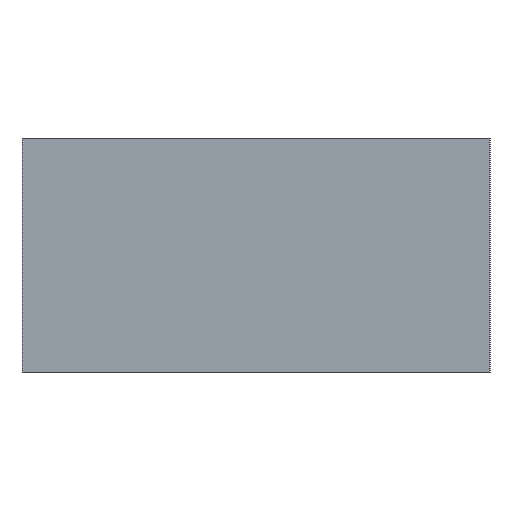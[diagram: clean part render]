
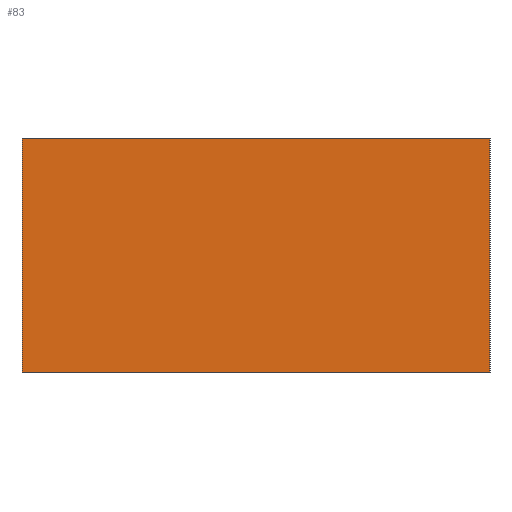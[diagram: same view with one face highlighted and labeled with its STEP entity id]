
A CAD part, left-side view. The second image highlights one B-rep face of the part: STEP entity #83.
In plain terms, the highlighted planar face has unit normal (-1, 0, 0).
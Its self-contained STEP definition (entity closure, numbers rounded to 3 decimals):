
#2 = EDGE_LOOP ( 'NONE', ( #153, #176, #157, #72 ) ) ;
#26 = VERTEX_POINT ( 'NONE', #89 ) ;
#36 = VERTEX_POINT ( 'NONE', #75 ) ;
#37 = AXIS2_PLACEMENT_3D ( 'NONE', #65, #124, #126 ) ;
#39 = DIRECTION ( 'NONE',  ( 0., -1., 0. ) ) ;
#56 = VERTEX_POINT ( 'NONE', #159 ) ;
#59 = CARTESIAN_POINT ( 'NONE',  ( -18.75, -5., 5. ) ) ;
#61 = LINE ( 'NONE', #163, #201 ) ;
#65 = CARTESIAN_POINT ( 'NONE',  ( -18.75, -5., 5. ) ) ;
#72 = ORIENTED_EDGE ( 'NONE', *, *, #152, .T. ) ;
#75 = CARTESIAN_POINT ( 'NONE',  ( -18.75, 5., 5. ) ) ;
#78 = LINE ( 'NONE', #119, #183 ) ;
#79 = PLANE ( 'NONE',  #37 ) ;
#80 = CARTESIAN_POINT ( 'NONE',  ( -18.75, -5., 0. ) ) ;
#83 = ADVANCED_FACE ( 'NONE', ( #150 ), #79, .F. ) ;
#89 = CARTESIAN_POINT ( 'NONE',  ( -18.75, -5., 0. ) ) ;
#90 = VERTEX_POINT ( 'NONE', #123 ) ;
#93 = EDGE_CURVE ( 'NONE', #56, #26, #61, .T. ) ;
#96 = DIRECTION ( 'NONE',  ( 0., -1., 0. ) ) ;
#108 = LINE ( 'NONE', #80, #125 ) ;
#109 = DIRECTION ( 'NONE',  ( 0., 0., -1. ) ) ;
#110 = LINE ( 'NONE', #59, #151 ) ;
#119 = CARTESIAN_POINT ( 'NONE',  ( -18.75, 5., 5. ) ) ;
#123 = CARTESIAN_POINT ( 'NONE',  ( -18.75, 5., 0. ) ) ;
#124 = DIRECTION ( 'NONE',  ( 1., 0., 0. ) ) ;
#125 = VECTOR ( 'NONE', #96, 1000. ) ;
#126 = DIRECTION ( 'NONE',  ( 0., 0., -1. ) ) ;
#150 = FACE_OUTER_BOUND ( 'NONE', #2, .T. ) ;
#151 = VECTOR ( 'NONE', #39, 1000. ) ;
#152 = EDGE_CURVE ( 'NONE', #36, #90, #78, .T. ) ;
#153 = ORIENTED_EDGE ( 'NONE', *, *, #181, .T. ) ;
#157 = ORIENTED_EDGE ( 'NONE', *, *, #165, .F. ) ;
#159 = CARTESIAN_POINT ( 'NONE',  ( -18.75, -5., 5. ) ) ;
#161 = DIRECTION ( 'NONE',  ( 0., 0., -1. ) ) ;
#163 = CARTESIAN_POINT ( 'NONE',  ( -18.75, -5., 5. ) ) ;
#165 = EDGE_CURVE ( 'NONE', #36, #56, #110, .T. ) ;
#176 = ORIENTED_EDGE ( 'NONE', *, *, #93, .F. ) ;
#181 = EDGE_CURVE ( 'NONE', #90, #26, #108, .T. ) ;
#183 = VECTOR ( 'NONE', #109, 1000. ) ;
#201 = VECTOR ( 'NONE', #161, 1000. ) ;
